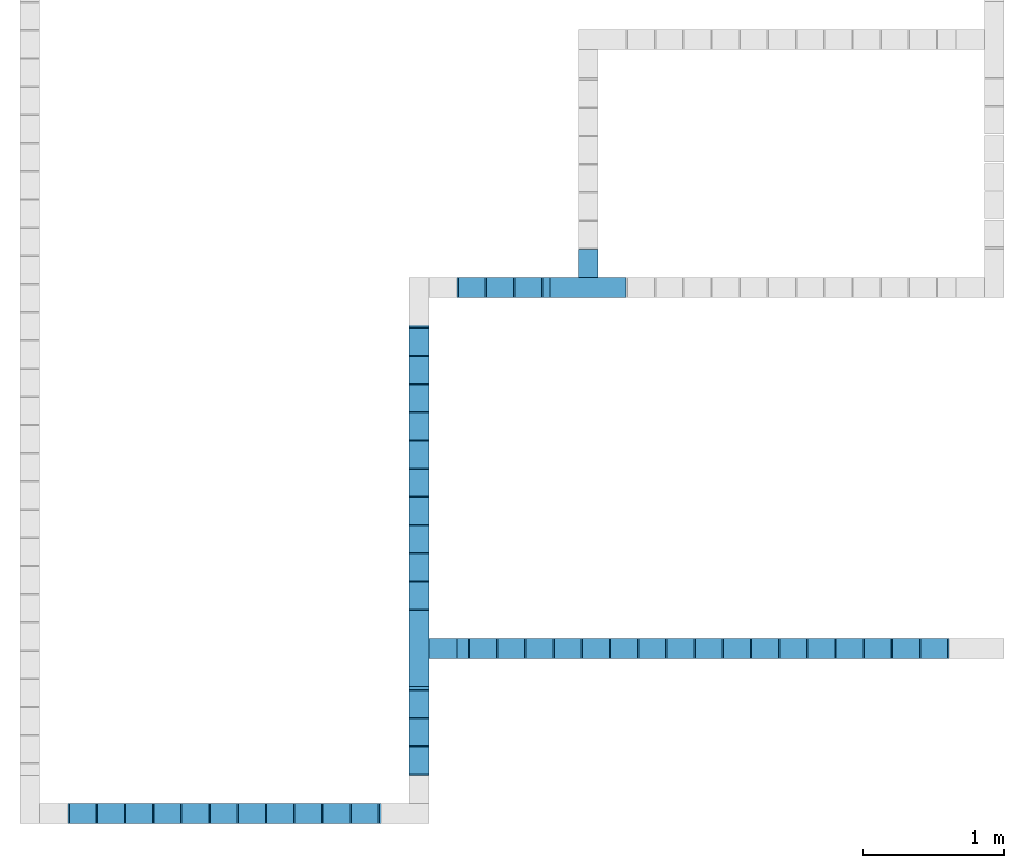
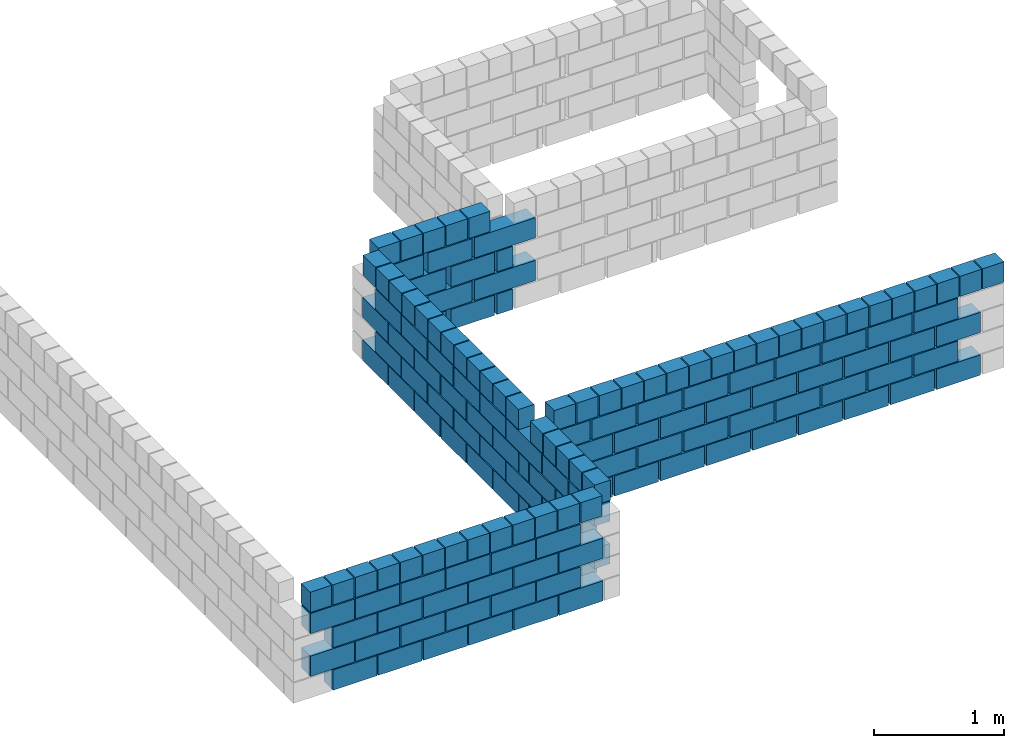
# One storey, part 1 of 3: 7 walls.
"""IFC4 building model written with IfcOpenShell, lengths in centimetres."""

from ifc_helpers import new_model, si_unit, derived_unit, frame, origin, origin_with_axes, origin_2d_with_axis, place, context, project, spatial, rectangle, extrude, element, save


model = new_model("IFC4")

# Units and contexts
model_context = context("Model", 3, precision=1e-05, world=origin_with_axes(), identifier="Body")
ifc_project = project(units=[si_unit("LENGTHUNIT", "METRE", prefix="CENTI"), si_unit("VOLUMEUNIT", "CUBIC_METRE"), si_unit("AREAUNIT", "SQUARE_METRE"), si_unit("POWERUNIT", "WATT"), si_unit("LUMINOUSFLUXUNIT", "LUMEN"), si_unit("ELECTRICCURRENTUNIT", "AMPERE"), si_unit("PRESSUREUNIT", "PASCAL", prefix="KILO"), si_unit("MASSUNIT", "GRAM", prefix="KILO"), si_unit("PLANEANGLEUNIT", "RADIAN"), derived_unit("VOLUMETRICFLOWRATEUNIT", [(si_unit("LENGTHUNIT", "METRE"), 3), (si_unit("TIMEUNIT", "SECOND"), -1)])], contexts=[model_context])

# Site, building, storey
site_placement = place(None, origin_with_axes())
site = spatial("IfcSite", under=ifc_project, at=site_placement)
building_placement = place(site_placement, origin())
building = spatial("IfcBuilding", under=site, at=building_placement)
placement = place(building_placement, origin_with_axes())
storey_placement = place(placement, frame((0.0, 0.0, 272.0), z_axis=(0.0, 0.0, 1.0), x_axis=(1.0, 0.0, 0.0)))
storey = spatial("IfcBuildingStorey", under=building, at=storey_placement, Name="LAJE", CompositionType="ELEMENT", Elevation=272.0)

# Walls
wall_1_placement = place(storey_placement, frame((294.0, 125.0, 79.0), z_axis=(0.0, 0.0, 1.0), x_axis=(1.0, 0.0, 0.0)))
element("IfcWall", 1, at=wall_1_placement, inside=storey, context=model_context, shape_type="SolidModel", body=[
    extrude(rectangle(XDim=34.0, YDim=14.0, at=origin_2d_with_axis()), frame((0.0, 0.0, -79.0), z_axis=(0.0, 0.0, 1.0), x_axis=(1.0, 0.0, 0.0)), (0.0, 0.0, 1.0), 19.0),
    extrude(rectangle(XDim=54.0, YDim=14.0, at=origin_2d_with_axis()), frame((-10.0, 0.0, -59.0), z_axis=(0.0, 0.0, 1.0), x_axis=(0.0, -1.0, 0.0)), (0.0, 0.0, 1.0), 19.0),
    extrude(rectangle(XDim=34.0, YDim=14.0, at=origin_2d_with_axis()), frame((0.0, 0.0, -39.0), z_axis=(0.0, 0.0, 1.0), x_axis=(1.0, 0.0, 0.0)), (0.0, 0.0, 1.0), 19.0),
    extrude(rectangle(XDim=54.0, YDim=14.0, at=origin_2d_with_axis()), frame((-10.0, 0.0, -19.0), z_axis=(0.0, 0.0, 1.0), x_axis=(0.0, -1.0, 0.0)), (0.0, 0.0, 1.0), 19.0),
])
wall_2_placement = place(storey_placement, frame((404.01, 391.01, 79.0), z_axis=(0.0, 0.0, 1.0), x_axis=(1.0, 0.0, 0.0)))
element("IfcWall", 2, at=wall_2_placement, inside=storey, context=model_context, shape_type="SolidModel", body=[
    extrude(rectangle(XDim=34.0, YDim=14.0, at=origin_2d_with_axis()), frame((0.0, 0.0, -79.0), z_axis=(0.0, 0.0, 1.0), x_axis=(0.0, 1.0, 0.0)), (0.0, 0.0, 1.0), 19.0),
    extrude(rectangle(XDim=54.0, YDim=14.0, at=origin_2d_with_axis()), frame((0.0, -10.0, -59.0), z_axis=(0.0, 0.0, 1.0), x_axis=(-1.0, 0.0, 0.0)), (0.0, 0.0, 1.0), 19.0),
    extrude(rectangle(XDim=34.0, YDim=14.0, at=origin_2d_with_axis()), frame((0.0, 0.0, -39.0), z_axis=(0.0, 0.0, 1.0), x_axis=(0.0, 1.0, 0.0)), (0.0, 0.0, 1.0), 19.0),
    extrude(rectangle(XDim=54.0, YDim=14.0, at=origin_2d_with_axis()), frame((0.0, -10.0, -19.0), z_axis=(0.0, 0.0, 1.0), x_axis=(-1.0, 0.0, 0.0)), (0.0, 0.0, 1.0), 19.0),
])
wall_3_placement = place(storey_placement, frame((343.505, 381.01, 99.0), z_axis=(0.0, 0.0, 1.0), x_axis=(1.0, 0.0, 0.0)))
element("IfcWall", 3, at=wall_3_placement, inside=storey, Name="PAR-LAJE-2", context=model_context, shape_type="SolidModel", body=[
    extrude(rectangle(XDim=39.0, YDim=14.0, at=origin_2d_with_axis()), frame((-11.005, 0.0, -99.0), z_axis=(0.0, 0.0, 1.0), x_axis=(1.0, 0.0, 0.0)), (0.0, 0.0, 1.0), 19.0),
    extrude(rectangle(XDim=39.0, YDim=14.0, at=origin_2d_with_axis()), frame((32.005, 0.0, -99.0), z_axis=(0.0, 0.0, 1.0), x_axis=(1.0, 0.0, 0.0)), (0.0, 0.0, 1.0), 19.0),
    extrude(rectangle(XDim=39.0, YDim=14.0, at=origin_2d_with_axis()), frame((-31.005, 0.0, -79.0), z_axis=(0.0, 0.0, 1.0), x_axis=(1.0, 0.0, 0.0)), (0.0, 0.0, 1.0), 19.0),
    extrude(rectangle(XDim=39.0, YDim=14.0, at=origin_2d_with_axis()), frame((12.005, 0.0, -79.0), z_axis=(0.0, 0.0, 1.0), x_axis=(1.0, 0.0, 0.0)), (0.0, 0.0, 1.0), 19.0),
    extrude(rectangle(XDim=39.0, YDim=14.0, at=origin_2d_with_axis()), frame((-11.005, 0.0, -59.0), z_axis=(0.0, 0.0, 1.0), x_axis=(1.0, 0.0, 0.0)), (0.0, 0.0, 1.0), 19.0),
    extrude(rectangle(XDim=39.0, YDim=14.0, at=origin_2d_with_axis()), frame((32.005, 0.0, -59.0), z_axis=(0.0, 0.0, 1.0), x_axis=(1.0, 0.0, 0.0)), (0.0, 0.0, 1.0), 19.0),
    extrude(rectangle(XDim=39.0, YDim=14.0, at=origin_2d_with_axis()), frame((-31.005, 0.0, -39.0), z_axis=(0.0, 0.0, 1.0), x_axis=(1.0, 0.0, 0.0)), (0.0, 0.0, 1.0), 19.0),
    extrude(rectangle(XDim=39.0, YDim=14.0, at=origin_2d_with_axis()), frame((12.005, 0.0, -39.0), z_axis=(0.0, 0.0, 1.0), x_axis=(1.0, 0.0, 0.0)), (0.0, 0.0, 1.0), 19.0),
    extrude(rectangle(XDim=19.0, YDim=14.0, at=origin_2d_with_axis()), frame((-42.005, 0.0, -19.0), z_axis=(0.0, 0.0, 1.0), x_axis=(1.0, 0.0, 0.0)), (0.0, 0.0, 1.0), 19.0),
    extrude(rectangle(XDim=19.0, YDim=14.0, at=origin_2d_with_axis()), frame((-22.005, 0.0, -19.0), z_axis=(0.0, 0.0, 1.0), x_axis=(1.0, 0.0, 0.0)), (0.0, 0.0, 1.0), 19.0),
    extrude(rectangle(XDim=19.0, YDim=14.0, at=origin_2d_with_axis()), frame((-2.005, 0.0, -19.0), z_axis=(0.0, 0.0, 1.0), x_axis=(1.0, 0.0, 0.0)), (0.0, 0.0, 1.0), 19.0),
    extrude(rectangle(XDim=19.0, YDim=14.0, at=origin_2d_with_axis()), frame((17.995, 0.0, -19.0), z_axis=(0.0, 0.0, 1.0), x_axis=(1.0, 0.0, 0.0)), (0.0, 0.0, 1.0), 19.0),
    extrude(rectangle(XDim=19.0, YDim=14.0, at=origin_2d_with_axis()), frame((37.995, 0.0, -19.0), z_axis=(0.0, 0.0, 1.0), x_axis=(1.0, 0.0, 0.0)), (0.0, 0.0, 1.0), 19.0),
])
wall_4_placement = place(storey_placement, frame((495.9055, 125.0, 99.0), z_axis=(0.0, 0.0, 1.0), x_axis=(1.0, 0.0, 0.0)))
element("IfcWall", 4, at=wall_4_placement, inside=storey, Name="PAR-LAJE-3", context=model_context, shape_type="SolidModel", body=[
    extrude(rectangle(XDim=39.0, YDim=14.0, at=origin_2d_with_axis()), frame((162.8035, 0.0, -99.0), z_axis=(0.0, 0.0, 1.0), x_axis=(-1.0, 0.0, 0.0)), (0.0, 0.0, 1.0), 19.0),
    extrude(rectangle(XDim=39.0, YDim=14.0, at=origin_2d_with_axis()), frame((122.0025, 0.0, -99.0), z_axis=(0.0, 0.0, 1.0), x_axis=(-1.0, 0.0, 0.0)), (0.0, 0.0, 1.0), 19.0),
    extrude(rectangle(XDim=39.0, YDim=14.0, at=origin_2d_with_axis()), frame((81.2015, 0.0, -99.0), z_axis=(0.0, 0.0, 1.0), x_axis=(-1.0, 0.0, 0.0)), (0.0, 0.0, 1.0), 19.0),
    extrude(rectangle(XDim=39.0, YDim=14.0, at=origin_2d_with_axis()), frame((40.4005, 0.0, -99.0), z_axis=(0.0, 0.0, 1.0), x_axis=(-1.0, 0.0, 0.0)), (0.0, 0.0, 1.0), 19.0),
    extrude(rectangle(XDim=39.0, YDim=14.0, at=origin_2d_with_axis()), frame((-0.4005, 0.0, -99.0), z_axis=(0.0, 0.0, 1.0), x_axis=(-1.0, 0.0, 0.0)), (0.0, 0.0, 1.0), 19.0),
    extrude(rectangle(XDim=39.0, YDim=14.0, at=origin_2d_with_axis()), frame((-41.2015, 0.0, -99.0), z_axis=(0.0, 0.0, 1.0), x_axis=(-1.0, 0.0, 0.0)), (0.0, 0.0, 1.0), 19.0),
    extrude(rectangle(XDim=39.0, YDim=14.0, at=origin_2d_with_axis()), frame((-82.0025, 0.0, -99.0), z_axis=(0.0, 0.0, 1.0), x_axis=(-1.0, 0.0, 0.0)), (0.0, 0.0, 1.0), 19.0),
    extrude(rectangle(XDim=39.0, YDim=14.0, at=origin_2d_with_axis()), frame((-122.8035, 0.0, -99.0), z_axis=(0.0, 0.0, 1.0), x_axis=(-1.0, 0.0, 0.0)), (0.0, 0.0, 1.0), 19.0),
    extrude(rectangle(XDim=39.0, YDim=14.0, at=origin_2d_with_axis()), frame((-163.6045, 0.0, -99.0), z_axis=(0.0, 0.0, 1.0), x_axis=(-1.0, 0.0, 0.0)), (0.0, 0.0, 1.0), 19.0),
    extrude(rectangle(XDim=39.0, YDim=14.0, at=origin_2d_with_axis()), frame((142.8035, 0.0, -79.0), z_axis=(0.0, 0.0, 1.0), x_axis=(-1.0, 0.0, 0.0)), (0.0, 0.0, 1.0), 19.0),
    extrude(rectangle(XDim=39.0, YDim=14.0, at=origin_2d_with_axis()), frame((102.0025, 0.0, -79.0), z_axis=(0.0, 0.0, 1.0), x_axis=(-1.0, 0.0, 0.0)), (0.0, 0.0, 1.0), 19.0),
    extrude(rectangle(XDim=39.0, YDim=14.0, at=origin_2d_with_axis()), frame((61.2015, 0.0, -79.0), z_axis=(0.0, 0.0, 1.0), x_axis=(-1.0, 0.0, 0.0)), (0.0, 0.0, 1.0), 19.0),
    extrude(rectangle(XDim=39.0, YDim=14.0, at=origin_2d_with_axis()), frame((20.4005, 0.0, -79.0), z_axis=(0.0, 0.0, 1.0), x_axis=(-1.0, 0.0, 0.0)), (0.0, 0.0, 1.0), 19.0),
    extrude(rectangle(XDim=39.0, YDim=14.0, at=origin_2d_with_axis()), frame((-20.4005, 0.0, -79.0), z_axis=(0.0, 0.0, 1.0), x_axis=(-1.0, 0.0, 0.0)), (0.0, 0.0, 1.0), 19.0),
    extrude(rectangle(XDim=39.0, YDim=14.0, at=origin_2d_with_axis()), frame((-61.2015, 0.0, -79.0), z_axis=(0.0, 0.0, 1.0), x_axis=(-1.0, 0.0, 0.0)), (0.0, 0.0, 1.0), 19.0),
    extrude(rectangle(XDim=39.0, YDim=14.0, at=origin_2d_with_axis()), frame((-102.0025, 0.0, -79.0), z_axis=(0.0, 0.0, 1.0), x_axis=(-1.0, 0.0, 0.0)), (0.0, 0.0, 1.0), 19.0),
    extrude(rectangle(XDim=39.0, YDim=14.0, at=origin_2d_with_axis()), frame((-142.8035, 0.0, -79.0), z_axis=(0.0, 0.0, 1.0), x_axis=(-1.0, 0.0, 0.0)), (0.0, 0.0, 1.0), 19.0),
    extrude(rectangle(XDim=39.0, YDim=14.0, at=origin_2d_with_axis()), frame((-183.6045, 0.0, -79.0), z_axis=(0.0, 0.0, 1.0), x_axis=(-1.0, 0.0, 0.0)), (0.0, 0.0, 1.0), 19.0),
    extrude(rectangle(XDim=39.0, YDim=14.0, at=origin_2d_with_axis()), frame((162.8035, 0.0, -59.0), z_axis=(0.0, 0.0, 1.0), x_axis=(-1.0, 0.0, 0.0)), (0.0, 0.0, 1.0), 19.0),
    extrude(rectangle(XDim=39.0, YDim=14.0, at=origin_2d_with_axis()), frame((122.0025, 0.0, -59.0), z_axis=(0.0, 0.0, 1.0), x_axis=(-1.0, 0.0, 0.0)), (0.0, 0.0, 1.0), 19.0),
    extrude(rectangle(XDim=39.0, YDim=14.0, at=origin_2d_with_axis()), frame((81.2015, 0.0, -59.0), z_axis=(0.0, 0.0, 1.0), x_axis=(-1.0, 0.0, 0.0)), (0.0, 0.0, 1.0), 19.0),
    extrude(rectangle(XDim=39.0, YDim=14.0, at=origin_2d_with_axis()), frame((40.4005, 0.0, -59.0), z_axis=(0.0, 0.0, 1.0), x_axis=(-1.0, 0.0, 0.0)), (0.0, 0.0, 1.0), 19.0),
    extrude(rectangle(XDim=39.0, YDim=14.0, at=origin_2d_with_axis()), frame((-0.4005, 0.0, -59.0), z_axis=(0.0, 0.0, 1.0), x_axis=(-1.0, 0.0, 0.0)), (0.0, 0.0, 1.0), 19.0),
    extrude(rectangle(XDim=39.0, YDim=14.0, at=origin_2d_with_axis()), frame((-41.2015, 0.0, -59.0), z_axis=(0.0, 0.0, 1.0), x_axis=(-1.0, 0.0, 0.0)), (0.0, 0.0, 1.0), 19.0),
    extrude(rectangle(XDim=39.0, YDim=14.0, at=origin_2d_with_axis()), frame((-82.0025, 0.0, -59.0), z_axis=(0.0, 0.0, 1.0), x_axis=(-1.0, 0.0, 0.0)), (0.0, 0.0, 1.0), 19.0),
    extrude(rectangle(XDim=39.0, YDim=14.0, at=origin_2d_with_axis()), frame((-122.8035, 0.0, -59.0), z_axis=(0.0, 0.0, 1.0), x_axis=(-1.0, 0.0, 0.0)), (0.0, 0.0, 1.0), 19.0),
    extrude(rectangle(XDim=39.0, YDim=14.0, at=origin_2d_with_axis()), frame((-163.6045, 0.0, -59.0), z_axis=(0.0, 0.0, 1.0), x_axis=(-1.0, 0.0, 0.0)), (0.0, 0.0, 1.0), 19.0),
    extrude(rectangle(XDim=39.0, YDim=14.0, at=origin_2d_with_axis()), frame((142.8035, 0.0, -39.0), z_axis=(0.0, 0.0, 1.0), x_axis=(-1.0, 0.0, 0.0)), (0.0, 0.0, 1.0), 19.0),
    extrude(rectangle(XDim=39.0, YDim=14.0, at=origin_2d_with_axis()), frame((102.0025, 0.0, -39.0), z_axis=(0.0, 0.0, 1.0), x_axis=(-1.0, 0.0, 0.0)), (0.0, 0.0, 1.0), 19.0),
    extrude(rectangle(XDim=39.0, YDim=14.0, at=origin_2d_with_axis()), frame((61.2015, 0.0, -39.0), z_axis=(0.0, 0.0, 1.0), x_axis=(-1.0, 0.0, 0.0)), (0.0, 0.0, 1.0), 19.0),
    extrude(rectangle(XDim=39.0, YDim=14.0, at=origin_2d_with_axis()), frame((20.4005, 0.0, -39.0), z_axis=(0.0, 0.0, 1.0), x_axis=(-1.0, 0.0, 0.0)), (0.0, 0.0, 1.0), 19.0),
    extrude(rectangle(XDim=39.0, YDim=14.0, at=origin_2d_with_axis()), frame((-20.4005, 0.0, -39.0), z_axis=(0.0, 0.0, 1.0), x_axis=(-1.0, 0.0, 0.0)), (0.0, 0.0, 1.0), 19.0),
    extrude(rectangle(XDim=39.0, YDim=14.0, at=origin_2d_with_axis()), frame((-61.2015, 0.0, -39.0), z_axis=(0.0, 0.0, 1.0), x_axis=(-1.0, 0.0, 0.0)), (0.0, 0.0, 1.0), 19.0),
    extrude(rectangle(XDim=39.0, YDim=14.0, at=origin_2d_with_axis()), frame((-102.0025, 0.0, -39.0), z_axis=(0.0, 0.0, 1.0), x_axis=(-1.0, 0.0, 0.0)), (0.0, 0.0, 1.0), 19.0),
    extrude(rectangle(XDim=39.0, YDim=14.0, at=origin_2d_with_axis()), frame((-142.8035, 0.0, -39.0), z_axis=(0.0, 0.0, 1.0), x_axis=(-1.0, 0.0, 0.0)), (0.0, 0.0, 1.0), 19.0),
    extrude(rectangle(XDim=39.0, YDim=14.0, at=origin_2d_with_axis()), frame((-183.6045, 0.0, -39.0), z_axis=(0.0, 0.0, 1.0), x_axis=(-1.0, 0.0, 0.0)), (0.0, 0.0, 1.0), 19.0),
    extrude(rectangle(XDim=19.0, YDim=14.0, at=origin_2d_with_axis()), frame((193.6045, 0.0, -19.0), z_axis=(0.0, 0.0, 1.0), x_axis=(-1.0, 0.0, 0.0)), (0.0, 0.0, 1.0), 19.0),
    extrude(rectangle(XDim=19.0, YDim=14.0, at=origin_2d_with_axis()), frame((173.6045, 0.0, -19.0), z_axis=(0.0, 0.0, 1.0), x_axis=(-1.0, 0.0, 0.0)), (0.0, 0.0, 1.0), 19.0),
    extrude(rectangle(XDim=19.0, YDim=14.0, at=origin_2d_with_axis()), frame((153.6045, 0.0, -19.0), z_axis=(0.0, 0.0, 1.0), x_axis=(-1.0, 0.0, 0.0)), (0.0, 0.0, 1.0), 19.0),
    extrude(rectangle(XDim=19.0, YDim=14.0, at=origin_2d_with_axis()), frame((133.6045, 0.0, -19.0), z_axis=(0.0, 0.0, 1.0), x_axis=(-1.0, 0.0, 0.0)), (0.0, 0.0, 1.0), 19.0),
    extrude(rectangle(XDim=19.0, YDim=14.0, at=origin_2d_with_axis()), frame((113.6045, 0.0, -19.0), z_axis=(0.0, 0.0, 1.0), x_axis=(-1.0, 0.0, 0.0)), (0.0, 0.0, 1.0), 19.0),
    extrude(rectangle(XDim=19.0, YDim=14.0, at=origin_2d_with_axis()), frame((93.6045, 0.0, -19.0), z_axis=(0.0, 0.0, 1.0), x_axis=(-1.0, 0.0, 0.0)), (0.0, 0.0, 1.0), 19.0),
    extrude(rectangle(XDim=19.0, YDim=14.0, at=origin_2d_with_axis()), frame((73.6045, 0.0, -19.0), z_axis=(0.0, 0.0, 1.0), x_axis=(-1.0, 0.0, 0.0)), (0.0, 0.0, 1.0), 19.0),
    extrude(rectangle(XDim=19.0, YDim=14.0, at=origin_2d_with_axis()), frame((53.6045, 0.0, -19.0), z_axis=(0.0, 0.0, 1.0), x_axis=(-1.0, 0.0, 0.0)), (0.0, 0.0, 1.0), 19.0),
    extrude(rectangle(XDim=19.0, YDim=14.0, at=origin_2d_with_axis()), frame((33.6045, 0.0, -19.0), z_axis=(0.0, 0.0, 1.0), x_axis=(-1.0, 0.0, 0.0)), (0.0, 0.0, 1.0), 19.0),
    extrude(rectangle(XDim=19.0, YDim=14.0, at=origin_2d_with_axis()), frame((13.6045, 0.0, -19.0), z_axis=(0.0, 0.0, 1.0), x_axis=(-1.0, 0.0, 0.0)), (0.0, 0.0, 1.0), 19.0),
    extrude(rectangle(XDim=19.0, YDim=14.0, at=origin_2d_with_axis()), frame((-6.3955, 0.0, -19.0), z_axis=(0.0, 0.0, 1.0), x_axis=(-1.0, 0.0, 0.0)), (0.0, 0.0, 1.0), 19.0),
    extrude(rectangle(XDim=19.0, YDim=14.0, at=origin_2d_with_axis()), frame((-26.3955, 0.0, -19.0), z_axis=(0.0, 0.0, 1.0), x_axis=(-1.0, 0.0, 0.0)), (0.0, 0.0, 1.0), 19.0),
    extrude(rectangle(XDim=19.0, YDim=14.0, at=origin_2d_with_axis()), frame((-46.3955, 0.0, -19.0), z_axis=(0.0, 0.0, 1.0), x_axis=(-1.0, 0.0, 0.0)), (0.0, 0.0, 1.0), 19.0),
    extrude(rectangle(XDim=19.0, YDim=14.0, at=origin_2d_with_axis()), frame((-66.3955, 0.0, -19.0), z_axis=(0.0, 0.0, 1.0), x_axis=(-1.0, 0.0, 0.0)), (0.0, 0.0, 1.0), 19.0),
    extrude(rectangle(XDim=19.0, YDim=14.0, at=origin_2d_with_axis()), frame((-86.3955, 0.0, -19.0), z_axis=(0.0, 0.0, 1.0), x_axis=(-1.0, 0.0, 0.0)), (0.0, 0.0, 1.0), 19.0),
    extrude(rectangle(XDim=19.0, YDim=14.0, at=origin_2d_with_axis()), frame((-106.3955, 0.0, -19.0), z_axis=(0.0, 0.0, 1.0), x_axis=(-1.0, 0.0, 0.0)), (0.0, 0.0, 1.0), 19.0),
    extrude(rectangle(XDim=19.0, YDim=14.0, at=origin_2d_with_axis()), frame((-126.3955, 0.0, -19.0), z_axis=(0.0, 0.0, 1.0), x_axis=(-1.0, 0.0, 0.0)), (0.0, 0.0, 1.0), 19.0),
    extrude(rectangle(XDim=19.0, YDim=14.0, at=origin_2d_with_axis()), frame((-146.3955, 0.0, -19.0), z_axis=(0.0, 0.0, 1.0), x_axis=(-1.0, 0.0, 0.0)), (0.0, 0.0, 1.0), 19.0),
    extrude(rectangle(XDim=19.0, YDim=14.0, at=origin_2d_with_axis()), frame((-166.3955, 0.0, -19.0), z_axis=(0.0, 0.0, 1.0), x_axis=(-1.0, 0.0, 0.0)), (0.0, 0.0, 1.0), 19.0),
    extrude(rectangle(XDim=19.0, YDim=14.0, at=origin_2d_with_axis()), frame((-186.3955, 0.0, -19.0), z_axis=(0.0, 0.0, 1.0), x_axis=(-1.0, 0.0, 0.0)), (0.0, 0.0, 1.0), 19.0),
])
wall_5_placement = place(storey_placement, frame((145.92857142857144, 8.0, 99.0), z_axis=(0.0, 0.0, 1.0), x_axis=(1.0, 0.0, 0.0)))
element("IfcWall", 5, at=wall_5_placement, inside=storey, Name="PAR-LAJE-4", context=model_context, shape_type="SolidModel", body=[
    extrude(rectangle(XDim=39.0, YDim=14.0, at=origin_2d_with_axis()), frame((-90.2857142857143, 0.0, -99.0), z_axis=(0.0, 0.0, 1.0), x_axis=(1.0, 0.0, 0.0)), (0.0, 0.0, 1.0), 19.0),
    extrude(rectangle(XDim=39.0, YDim=14.0, at=origin_2d_with_axis()), frame((-50.14285714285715, 0.0, -99.0), z_axis=(0.0, 0.0, 1.0), x_axis=(1.0, 0.0, 0.0)), (0.0, 0.0, 1.0), 19.0),
    extrude(rectangle(XDim=39.0, YDim=14.0, at=origin_2d_with_axis()), frame((-10.0, 0.0, -99.0), z_axis=(0.0, 0.0, 1.0), x_axis=(1.0, 0.0, 0.0)), (0.0, 0.0, 1.0), 19.0),
    extrude(rectangle(XDim=39.0, YDim=14.0, at=origin_2d_with_axis()), frame((30.14285714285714, 0.0, -99.0), z_axis=(0.0, 0.0, 1.0), x_axis=(1.0, 0.0, 0.0)), (0.0, 0.0, 1.0), 19.0),
    extrude(rectangle(XDim=39.0, YDim=14.0, at=origin_2d_with_axis()), frame((70.28571428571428, 0.0, -99.0), z_axis=(0.0, 0.0, 1.0), x_axis=(1.0, 0.0, 0.0)), (0.0, 0.0, 1.0), 19.0),
    extrude(rectangle(XDim=39.0, YDim=14.0, at=origin_2d_with_axis()), frame((110.42857142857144, 0.0, -99.0), z_axis=(0.0, 0.0, 1.0), x_axis=(1.0, 0.0, 0.0)), (0.0, 0.0, 1.0), 19.0),
    extrude(rectangle(XDim=39.0, YDim=14.0, at=origin_2d_with_axis()), frame((-110.2857142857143, 0.0, -79.0), z_axis=(0.0, 0.0, 1.0), x_axis=(1.0, 0.0, 0.0)), (0.0, 0.0, 1.0), 19.0),
    extrude(rectangle(XDim=39.0, YDim=14.0, at=origin_2d_with_axis()), frame((-70.14285714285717, 0.0, -79.0), z_axis=(0.0, 0.0, 1.0), x_axis=(1.0, 0.0, 0.0)), (0.0, 0.0, 1.0), 19.0),
    extrude(rectangle(XDim=39.0, YDim=14.0, at=origin_2d_with_axis()), frame((-30.0, 0.0, -79.0), z_axis=(0.0, 0.0, 1.0), x_axis=(1.0, 0.0, 0.0)), (0.0, 0.0, 1.0), 19.0),
    extrude(rectangle(XDim=39.0, YDim=14.0, at=origin_2d_with_axis()), frame((10.14285714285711, 0.0, -79.0), z_axis=(0.0, 0.0, 1.0), x_axis=(1.0, 0.0, 0.0)), (0.0, 0.0, 1.0), 19.0),
    extrude(rectangle(XDim=39.0, YDim=14.0, at=origin_2d_with_axis()), frame((50.28571428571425, 0.0, -79.0), z_axis=(0.0, 0.0, 1.0), x_axis=(1.0, 0.0, 0.0)), (0.0, 0.0, 1.0), 19.0),
    extrude(rectangle(XDim=39.0, YDim=14.0, at=origin_2d_with_axis()), frame((90.42857142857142, 0.0, -79.0), z_axis=(0.0, 0.0, 1.0), x_axis=(1.0, 0.0, 0.0)), (0.0, 0.0, 1.0), 19.0),
    extrude(rectangle(XDim=39.0, YDim=14.0, at=origin_2d_with_axis()), frame((-90.2857142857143, 0.0, -59.0), z_axis=(0.0, 0.0, 1.0), x_axis=(1.0, 0.0, 0.0)), (0.0, 0.0, 1.0), 19.0),
    extrude(rectangle(XDim=39.0, YDim=14.0, at=origin_2d_with_axis()), frame((-50.14285714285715, 0.0, -59.0), z_axis=(0.0, 0.0, 1.0), x_axis=(1.0, 0.0, 0.0)), (0.0, 0.0, 1.0), 19.0),
    extrude(rectangle(XDim=39.0, YDim=14.0, at=origin_2d_with_axis()), frame((-10.0, 0.0, -59.0), z_axis=(0.0, 0.0, 1.0), x_axis=(1.0, 0.0, 0.0)), (0.0, 0.0, 1.0), 19.0),
    extrude(rectangle(XDim=39.0, YDim=14.0, at=origin_2d_with_axis()), frame((30.14285714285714, 0.0, -59.0), z_axis=(0.0, 0.0, 1.0), x_axis=(1.0, 0.0, 0.0)), (0.0, 0.0, 1.0), 19.0),
    extrude(rectangle(XDim=39.0, YDim=14.0, at=origin_2d_with_axis()), frame((70.28571428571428, 0.0, -59.0), z_axis=(0.0, 0.0, 1.0), x_axis=(1.0, 0.0, 0.0)), (0.0, 0.0, 1.0), 19.0),
    extrude(rectangle(XDim=39.0, YDim=14.0, at=origin_2d_with_axis()), frame((110.42857142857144, 0.0, -59.0), z_axis=(0.0, 0.0, 1.0), x_axis=(1.0, 0.0, 0.0)), (0.0, 0.0, 1.0), 19.0),
    extrude(rectangle(XDim=39.0, YDim=14.0, at=origin_2d_with_axis()), frame((-110.2857142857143, 0.0, -39.0), z_axis=(0.0, 0.0, 1.0), x_axis=(1.0, 0.0, 0.0)), (0.0, 0.0, 1.0), 19.0),
    extrude(rectangle(XDim=39.0, YDim=14.0, at=origin_2d_with_axis()), frame((-70.14285714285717, 0.0, -39.0), z_axis=(0.0, 0.0, 1.0), x_axis=(1.0, 0.0, 0.0)), (0.0, 0.0, 1.0), 19.0),
    extrude(rectangle(XDim=39.0, YDim=14.0, at=origin_2d_with_axis()), frame((-30.0, 0.0, -39.0), z_axis=(0.0, 0.0, 1.0), x_axis=(1.0, 0.0, 0.0)), (0.0, 0.0, 1.0), 19.0),
    extrude(rectangle(XDim=39.0, YDim=14.0, at=origin_2d_with_axis()), frame((10.14285714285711, 0.0, -39.0), z_axis=(0.0, 0.0, 1.0), x_axis=(1.0, 0.0, 0.0)), (0.0, 0.0, 1.0), 19.0),
    extrude(rectangle(XDim=39.0, YDim=14.0, at=origin_2d_with_axis()), frame((50.28571428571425, 0.0, -39.0), z_axis=(0.0, 0.0, 1.0), x_axis=(1.0, 0.0, 0.0)), (0.0, 0.0, 1.0), 19.0),
    extrude(rectangle(XDim=39.0, YDim=14.0, at=origin_2d_with_axis()), frame((90.42857142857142, 0.0, -39.0), z_axis=(0.0, 0.0, 1.0), x_axis=(1.0, 0.0, 0.0)), (0.0, 0.0, 1.0), 19.0),
    extrude(rectangle(XDim=19.0, YDim=14.0, at=origin_2d_with_axis()), frame((-120.42857142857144, 0.0, -19.0), z_axis=(0.0, 0.0, 1.0), x_axis=(1.0, 0.0, 0.0)), (0.0, 0.0, 1.0), 19.0),
    extrude(rectangle(XDim=19.0, YDim=14.0, at=origin_2d_with_axis()), frame((-100.42857142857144, 0.0, -19.0), z_axis=(0.0, 0.0, 1.0), x_axis=(1.0, 0.0, 0.0)), (0.0, 0.0, 1.0), 19.0),
    extrude(rectangle(XDim=19.0, YDim=14.0, at=origin_2d_with_axis()), frame((-80.42857142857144, 0.0, -19.0), z_axis=(0.0, 0.0, 1.0), x_axis=(1.0, 0.0, 0.0)), (0.0, 0.0, 1.0), 19.0),
    extrude(rectangle(XDim=19.0, YDim=14.0, at=origin_2d_with_axis()), frame((-60.428571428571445, 0.0, -19.0), z_axis=(0.0, 0.0, 1.0), x_axis=(1.0, 0.0, 0.0)), (0.0, 0.0, 1.0), 19.0),
    extrude(rectangle(XDim=19.0, YDim=14.0, at=origin_2d_with_axis()), frame((-40.42857142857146, 0.0, -19.0), z_axis=(0.0, 0.0, 1.0), x_axis=(1.0, 0.0, 0.0)), (0.0, 0.0, 1.0), 19.0),
    extrude(rectangle(XDim=19.0, YDim=14.0, at=origin_2d_with_axis()), frame((-20.428571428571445, 0.0, -19.0), z_axis=(0.0, 0.0, 1.0), x_axis=(1.0, 0.0, 0.0)), (0.0, 0.0, 1.0), 19.0),
    extrude(rectangle(XDim=19.0, YDim=14.0, at=origin_2d_with_axis()), frame((-0.428571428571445, 0.0, -19.0), z_axis=(0.0, 0.0, 1.0), x_axis=(1.0, 0.0, 0.0)), (0.0, 0.0, 1.0), 19.0),
    extrude(rectangle(XDim=19.0, YDim=14.0, at=origin_2d_with_axis()), frame((19.571428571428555, 0.0, -19.0), z_axis=(0.0, 0.0, 1.0), x_axis=(1.0, 0.0, 0.0)), (0.0, 0.0, 1.0), 19.0),
    extrude(rectangle(XDim=19.0, YDim=14.0, at=origin_2d_with_axis()), frame((39.571428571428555, 0.0, -19.0), z_axis=(0.0, 0.0, 1.0), x_axis=(1.0, 0.0, 0.0)), (0.0, 0.0, 1.0), 19.0),
    extrude(rectangle(XDim=19.0, YDim=14.0, at=origin_2d_with_axis()), frame((59.571428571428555, 0.0, -19.0), z_axis=(0.0, 0.0, 1.0), x_axis=(1.0, 0.0, 0.0)), (0.0, 0.0, 1.0), 19.0),
    extrude(rectangle(XDim=19.0, YDim=14.0, at=origin_2d_with_axis()), frame((79.57142857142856, 0.0, -19.0), z_axis=(0.0, 0.0, 1.0), x_axis=(1.0, 0.0, 0.0)), (0.0, 0.0, 1.0), 19.0),
    extrude(rectangle(XDim=19.0, YDim=14.0, at=origin_2d_with_axis()), frame((99.57142857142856, 0.0, -19.0), z_axis=(0.0, 0.0, 1.0), x_axis=(1.0, 0.0, 0.0)), (0.0, 0.0, 1.0), 19.0),
    extrude(rectangle(XDim=19.0, YDim=14.0, at=origin_2d_with_axis()), frame((119.57142857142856, 0.0, -19.0), z_axis=(0.0, 0.0, 1.0), x_axis=(1.0, 0.0, 0.0)), (0.0, 0.0, 1.0), 19.0),
])
wall_6_placement = place(storey_placement, frame((284.0, 66.16666666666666, 99.0), z_axis=(0.0, 0.0, 1.0), x_axis=(1.0, 0.0, 0.0)))
element("IfcWall", 6, at=wall_6_placement, inside=storey, Name="PAR-LAJE-6", context=model_context, shape_type="SolidModel", body=[
    extrude(rectangle(XDim=39.0, YDim=14.0, at=origin_2d_with_axis()), frame((0.0, -10.0, -99.0), z_axis=(0.0, 0.0, 1.0), x_axis=(0.0, 1.0, 0.0)), (0.0, 0.0, 1.0), 19.0),
    extrude(rectangle(XDim=39.0, YDim=14.0, at=origin_2d_with_axis()), frame((0.0, 30.66666666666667, -99.0), z_axis=(0.0, 0.0, 1.0), x_axis=(0.0, 1.0, 0.0)), (0.0, 0.0, 1.0), 19.0),
    extrude(rectangle(XDim=39.0, YDim=14.0, at=origin_2d_with_axis()), frame((0.0, -30.0, -79.0), z_axis=(0.0, 0.0, 1.0), x_axis=(0.0, 1.0, 0.0)), (0.0, 0.0, 1.0), 19.0),
    extrude(rectangle(XDim=39.0, YDim=14.0, at=origin_2d_with_axis()), frame((0.0, 10.666666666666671, -79.0), z_axis=(0.0, 0.0, 1.0), x_axis=(0.0, 1.0, 0.0)), (0.0, 0.0, 1.0), 19.0),
    extrude(rectangle(XDim=39.0, YDim=14.0, at=origin_2d_with_axis()), frame((0.0, -10.0, -59.0), z_axis=(0.0, 0.0, 1.0), x_axis=(0.0, 1.0, 0.0)), (0.0, 0.0, 1.0), 19.0),
    extrude(rectangle(XDim=39.0, YDim=14.0, at=origin_2d_with_axis()), frame((0.0, 30.66666666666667, -59.0), z_axis=(0.0, 0.0, 1.0), x_axis=(0.0, 1.0, 0.0)), (0.0, 0.0, 1.0), 19.0),
    extrude(rectangle(XDim=39.0, YDim=14.0, at=origin_2d_with_axis()), frame((0.0, -30.0, -39.0), z_axis=(0.0, 0.0, 1.0), x_axis=(0.0, 1.0, 0.0)), (0.0, 0.0, 1.0), 19.0),
    extrude(rectangle(XDim=39.0, YDim=14.0, at=origin_2d_with_axis()), frame((0.0, 10.666666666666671, -39.0), z_axis=(0.0, 0.0, 1.0), x_axis=(0.0, 1.0, 0.0)), (0.0, 0.0, 1.0), 19.0),
    extrude(rectangle(XDim=19.0, YDim=14.0, at=origin_2d_with_axis()), frame((0.0, -40.66666666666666, -19.0), z_axis=(0.0, 0.0, 1.0), x_axis=(0.0, 1.0, 0.0)), (0.0, 0.0, 1.0), 19.0),
    extrude(rectangle(XDim=19.0, YDim=14.0, at=origin_2d_with_axis()), frame((0.0, -20.666666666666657, -19.0), z_axis=(0.0, 0.0, 1.0), x_axis=(0.0, 1.0, 0.0)), (0.0, 0.0, 1.0), 19.0),
    extrude(rectangle(XDim=19.0, YDim=14.0, at=origin_2d_with_axis()), frame((0.0, -0.666666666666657, -19.0), z_axis=(0.0, 0.0, 1.0), x_axis=(0.0, 1.0, 0.0)), (0.0, 0.0, 1.0), 19.0),
    extrude(rectangle(XDim=19.0, YDim=14.0, at=origin_2d_with_axis()), frame((0.0, 19.333333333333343, -19.0), z_axis=(0.0, 0.0, 1.0), x_axis=(0.0, 1.0, 0.0)), (0.0, 0.0, 1.0), 19.0),
    extrude(rectangle(XDim=19.0, YDim=14.0, at=origin_2d_with_axis()), frame((0.0, 39.33333333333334, -19.0), z_axis=(0.0, 0.0, 1.0), x_axis=(0.0, 1.0, 0.0)), (0.0, 0.0, 1.0), 19.0),
])
wall_7_placement = place(storey_placement, frame((284.0, 252.93285714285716, 99.0), z_axis=(0.0, 0.0, 1.0), x_axis=(1.0, 0.0, 0.0)))
element("IfcWall", 7, at=wall_7_placement, inside=storey, Name="PAR-LAJE-6", context=model_context, shape_type="SolidModel", body=[
    extrude(rectangle(XDim=39.0, YDim=14.0, at=origin_2d_with_axis()), frame((0.0, -100.28857142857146, -99.0), z_axis=(0.0, 0.0, 1.0), x_axis=(0.0, 1.0, 0.0)), (0.0, 0.0, 1.0), 19.0),
    extrude(rectangle(XDim=39.0, YDim=14.0, at=origin_2d_with_axis()), frame((0.0, -60.14428571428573, -99.0), z_axis=(0.0, 0.0, 1.0), x_axis=(0.0, 1.0, 0.0)), (0.0, 0.0, 1.0), 19.0),
    extrude(rectangle(XDim=39.0, YDim=14.0, at=origin_2d_with_axis()), frame((0.0, -20.0, -99.0), z_axis=(0.0, 0.0, 1.0), x_axis=(0.0, 1.0, 0.0)), (0.0, 0.0, 1.0), 19.0),
    extrude(rectangle(XDim=39.0, YDim=14.0, at=origin_2d_with_axis()), frame((0.0, 20.1442857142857, -99.0), z_axis=(0.0, 0.0, 1.0), x_axis=(0.0, 1.0, 0.0)), (0.0, 0.0, 1.0), 19.0),
    extrude(rectangle(XDim=39.0, YDim=14.0, at=origin_2d_with_axis()), frame((0.0, 60.28857142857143, -99.0), z_axis=(0.0, 0.0, 1.0), x_axis=(0.0, 1.0, 0.0)), (0.0, 0.0, 1.0), 19.0),
    extrude(rectangle(XDim=39.0, YDim=14.0, at=origin_2d_with_axis()), frame((0.0, 100.43285714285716, -99.0), z_axis=(0.0, 0.0, 1.0), x_axis=(0.0, 1.0, 0.0)), (0.0, 0.0, 1.0), 19.0),
    extrude(rectangle(XDim=39.0, YDim=14.0, at=origin_2d_with_axis()), frame((0.0, -80.26452380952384, -79.0), z_axis=(0.0, 0.0, 1.0), x_axis=(0.0, 1.0, 0.0)), (0.0, 0.0, 1.0), 19.0),
    extrude(rectangle(XDim=39.0, YDim=14.0, at=origin_2d_with_axis()), frame((0.0, -40.096190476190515, -79.0), z_axis=(0.0, 0.0, 1.0), x_axis=(0.0, 1.0, 0.0)), (0.0, 0.0, 1.0), 19.0),
    extrude(rectangle(XDim=39.0, YDim=14.0, at=origin_2d_with_axis()), frame((0.0, 0.072142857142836, -79.0), z_axis=(0.0, 0.0, 1.0), x_axis=(0.0, 1.0, 0.0)), (0.0, 0.0, 1.0), 19.0),
    extrude(rectangle(XDim=39.0, YDim=14.0, at=origin_2d_with_axis()), frame((0.0, 40.24047619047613, -79.0), z_axis=(0.0, 0.0, 1.0), x_axis=(0.0, 1.0, 0.0)), (0.0, 0.0, 1.0), 19.0),
    extrude(rectangle(XDim=39.0, YDim=14.0, at=origin_2d_with_axis()), frame((0.0, 80.40880952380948, -79.0), z_axis=(0.0, 0.0, 1.0), x_axis=(0.0, 1.0, 0.0)), (0.0, 0.0, 1.0), 19.0),
    extrude(rectangle(XDim=39.0, YDim=14.0, at=origin_2d_with_axis()), frame((0.0, -100.28857142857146, -59.0), z_axis=(0.0, 0.0, 1.0), x_axis=(0.0, 1.0, 0.0)), (0.0, 0.0, 1.0), 19.0),
    extrude(rectangle(XDim=39.0, YDim=14.0, at=origin_2d_with_axis()), frame((0.0, -60.14428571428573, -59.0), z_axis=(0.0, 0.0, 1.0), x_axis=(0.0, 1.0, 0.0)), (0.0, 0.0, 1.0), 19.0),
    extrude(rectangle(XDim=39.0, YDim=14.0, at=origin_2d_with_axis()), frame((0.0, -20.0, -59.0), z_axis=(0.0, 0.0, 1.0), x_axis=(0.0, 1.0, 0.0)), (0.0, 0.0, 1.0), 19.0),
    extrude(rectangle(XDim=39.0, YDim=14.0, at=origin_2d_with_axis()), frame((0.0, 20.1442857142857, -59.0), z_axis=(0.0, 0.0, 1.0), x_axis=(0.0, 1.0, 0.0)), (0.0, 0.0, 1.0), 19.0),
    extrude(rectangle(XDim=39.0, YDim=14.0, at=origin_2d_with_axis()), frame((0.0, 60.28857142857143, -59.0), z_axis=(0.0, 0.0, 1.0), x_axis=(0.0, 1.0, 0.0)), (0.0, 0.0, 1.0), 19.0),
    extrude(rectangle(XDim=39.0, YDim=14.0, at=origin_2d_with_axis()), frame((0.0, 100.43285714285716, -59.0), z_axis=(0.0, 0.0, 1.0), x_axis=(0.0, 1.0, 0.0)), (0.0, 0.0, 1.0), 19.0),
    extrude(rectangle(XDim=39.0, YDim=14.0, at=origin_2d_with_axis()), frame((0.0, -80.26452380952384, -39.0), z_axis=(0.0, 0.0, 1.0), x_axis=(0.0, 1.0, 0.0)), (0.0, 0.0, 1.0), 19.0),
    extrude(rectangle(XDim=39.0, YDim=14.0, at=origin_2d_with_axis()), frame((0.0, -40.096190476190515, -39.0), z_axis=(0.0, 0.0, 1.0), x_axis=(0.0, 1.0, 0.0)), (0.0, 0.0, 1.0), 19.0),
    extrude(rectangle(XDim=39.0, YDim=14.0, at=origin_2d_with_axis()), frame((0.0, 0.072142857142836, -39.0), z_axis=(0.0, 0.0, 1.0), x_axis=(0.0, 1.0, 0.0)), (0.0, 0.0, 1.0), 19.0),
    extrude(rectangle(XDim=39.0, YDim=14.0, at=origin_2d_with_axis()), frame((0.0, 40.24047619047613, -39.0), z_axis=(0.0, 0.0, 1.0), x_axis=(0.0, 1.0, 0.0)), (0.0, 0.0, 1.0), 19.0),
    extrude(rectangle(XDim=39.0, YDim=14.0, at=origin_2d_with_axis()), frame((0.0, 80.40880952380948, -39.0), z_axis=(0.0, 0.0, 1.0), x_axis=(0.0, 1.0, 0.0)), (0.0, 0.0, 1.0), 19.0),
    extrude(rectangle(XDim=19.0, YDim=14.0, at=origin_2d_with_axis()), frame((0.0, -110.43285714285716, -19.0), z_axis=(0.0, 0.0, 1.0), x_axis=(0.0, 1.0, 0.0)), (0.0, 0.0, 1.0), 19.0),
    extrude(rectangle(XDim=19.0, YDim=14.0, at=origin_2d_with_axis()), frame((0.0, -90.43285714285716, -19.0), z_axis=(0.0, 0.0, 1.0), x_axis=(0.0, 1.0, 0.0)), (0.0, 0.0, 1.0), 19.0),
    extrude(rectangle(XDim=19.0, YDim=14.0, at=origin_2d_with_axis()), frame((0.0, -70.43285714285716, -19.0), z_axis=(0.0, 0.0, 1.0), x_axis=(0.0, 1.0, 0.0)), (0.0, 0.0, 1.0), 19.0),
    extrude(rectangle(XDim=19.0, YDim=14.0, at=origin_2d_with_axis()), frame((0.0, -50.43285714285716, -19.0), z_axis=(0.0, 0.0, 1.0), x_axis=(0.0, 1.0, 0.0)), (0.0, 0.0, 1.0), 19.0),
    extrude(rectangle(XDim=19.0, YDim=14.0, at=origin_2d_with_axis()), frame((0.0, -30.43285714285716, -19.0), z_axis=(0.0, 0.0, 1.0), x_axis=(0.0, 1.0, 0.0)), (0.0, 0.0, 1.0), 19.0),
    extrude(rectangle(XDim=19.0, YDim=14.0, at=origin_2d_with_axis()), frame((0.0, -10.43285714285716, -19.0), z_axis=(0.0, 0.0, 1.0), x_axis=(0.0, 1.0, 0.0)), (0.0, 0.0, 1.0), 19.0),
    extrude(rectangle(XDim=19.0, YDim=14.0, at=origin_2d_with_axis()), frame((0.0, 9.56714285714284, -19.0), z_axis=(0.0, 0.0, 1.0), x_axis=(0.0, 1.0, 0.0)), (0.0, 0.0, 1.0), 19.0),
    extrude(rectangle(XDim=19.0, YDim=14.0, at=origin_2d_with_axis()), frame((0.0, 29.56714285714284, -19.0), z_axis=(0.0, 0.0, 1.0), x_axis=(0.0, 1.0, 0.0)), (0.0, 0.0, 1.0), 19.0),
    extrude(rectangle(XDim=19.0, YDim=14.0, at=origin_2d_with_axis()), frame((0.0, 49.56714285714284, -19.0), z_axis=(0.0, 0.0, 1.0), x_axis=(0.0, 1.0, 0.0)), (0.0, 0.0, 1.0), 19.0),
    extrude(rectangle(XDim=19.0, YDim=14.0, at=origin_2d_with_axis()), frame((0.0, 69.56714285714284, -19.0), z_axis=(0.0, 0.0, 1.0), x_axis=(0.0, 1.0, 0.0)), (0.0, 0.0, 1.0), 19.0),
    extrude(rectangle(XDim=19.0, YDim=14.0, at=origin_2d_with_axis()), frame((0.0, 89.56714285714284, -19.0), z_axis=(0.0, 0.0, 1.0), x_axis=(0.0, 1.0, 0.0)), (0.0, 0.0, 1.0), 19.0),
    extrude(rectangle(XDim=19.0, YDim=14.0, at=origin_2d_with_axis()), frame((0.0, 109.56714285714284, -19.0), z_axis=(0.0, 0.0, 1.0), x_axis=(0.0, 1.0, 0.0)), (0.0, 0.0, 1.0), 19.0),
])

save(model, "model.ifc")
